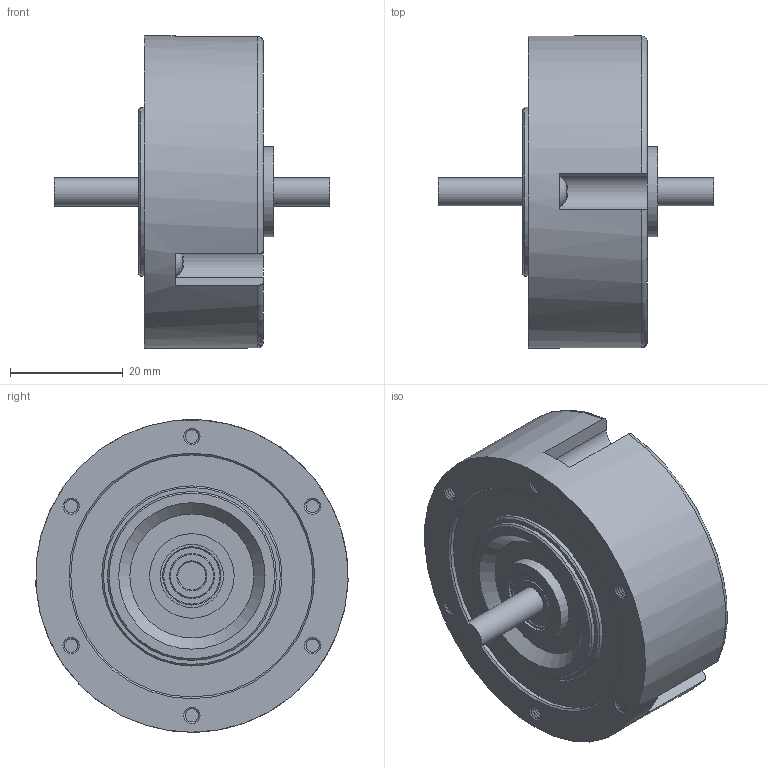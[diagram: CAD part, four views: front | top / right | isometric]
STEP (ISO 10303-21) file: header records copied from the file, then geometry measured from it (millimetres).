
FILE_DESCRIPTION((''),'1');
FILE_NAME('//Ha8000fs/isc/生産本部/ユニット部/図庫/国内ﾕﾆｯﾄ/ｴﾝﾙｰﾄ(ｲｰﾑｽﾞﾗﾎﾞ・ｱﾄﾗｯｸﾗﾎﾞ)/ﾄﾗｸｼｮﾝﾄﾞﾗｲﾌﾞ/ホームページ', '2021-04-19T04:21:15',(''), (''), 'KCM Version 1.1.1442.0', 'Kubotek KeyCreator', '');
FILE_SCHEMA(('AUTOMOTIVE_DESIGN'));
Length unit declared in the file: millimetre
Bounding box: 49 x 55.42 x 55.48 mm (x, y, z)
Surface area: 10946.6 mm2 (no closed solid volume)
Topology: 0 solids, 297 shells, 297 faces, 1444 edges, 1268 vertices
Faces by surface type: cone 151, plane 79, cylinder 61, bspline 3, torus 3
Full cylindrical faces by diameter (mm): 3 x3, 3.5 x6, 5 x2, 5.7 x3, 11.2 x1, 12 x1, 15 x1, 16 x1, 30 x1, 32 x1, 43 x1, 55.5 x1
Entity records: 15763 total; most frequent: CARTESIAN_POINT 4129, DIRECTION 2603, ORIENTED_EDGE 1620, EDGE_CURVE 1444, VERTEX_POINT 1268, AXIS2_PLACEMENT_3D 1083, CIRCLE 713, VECTOR 437
